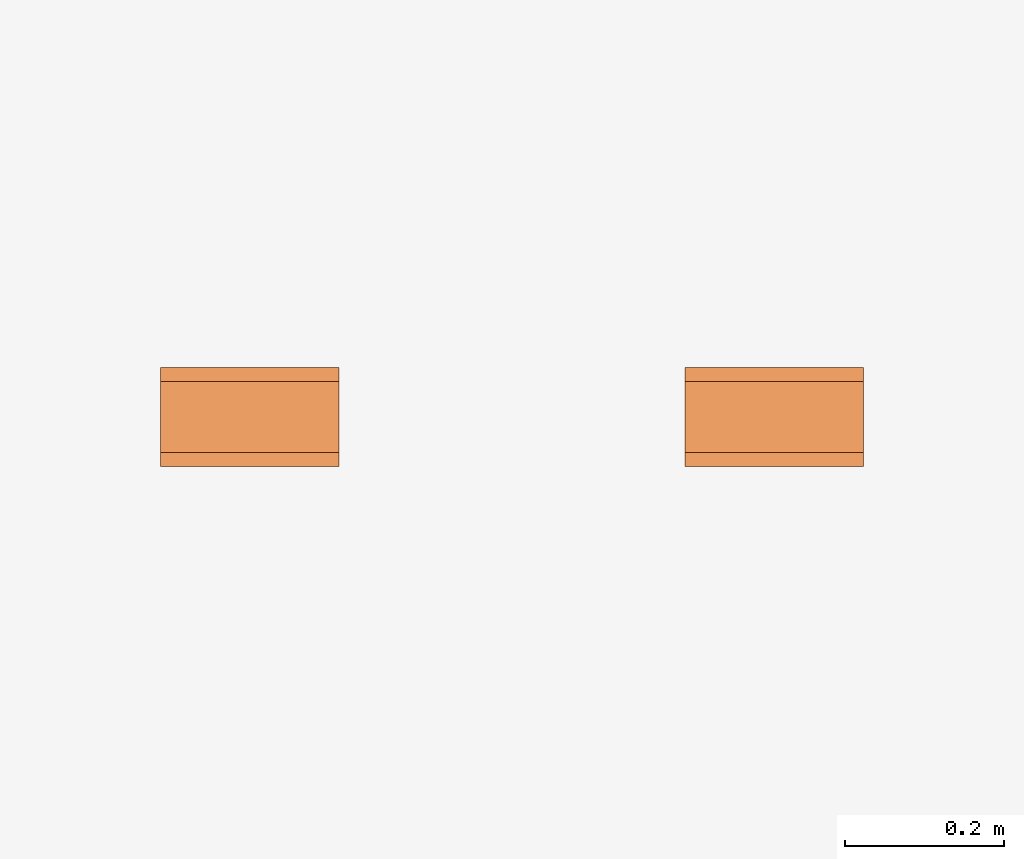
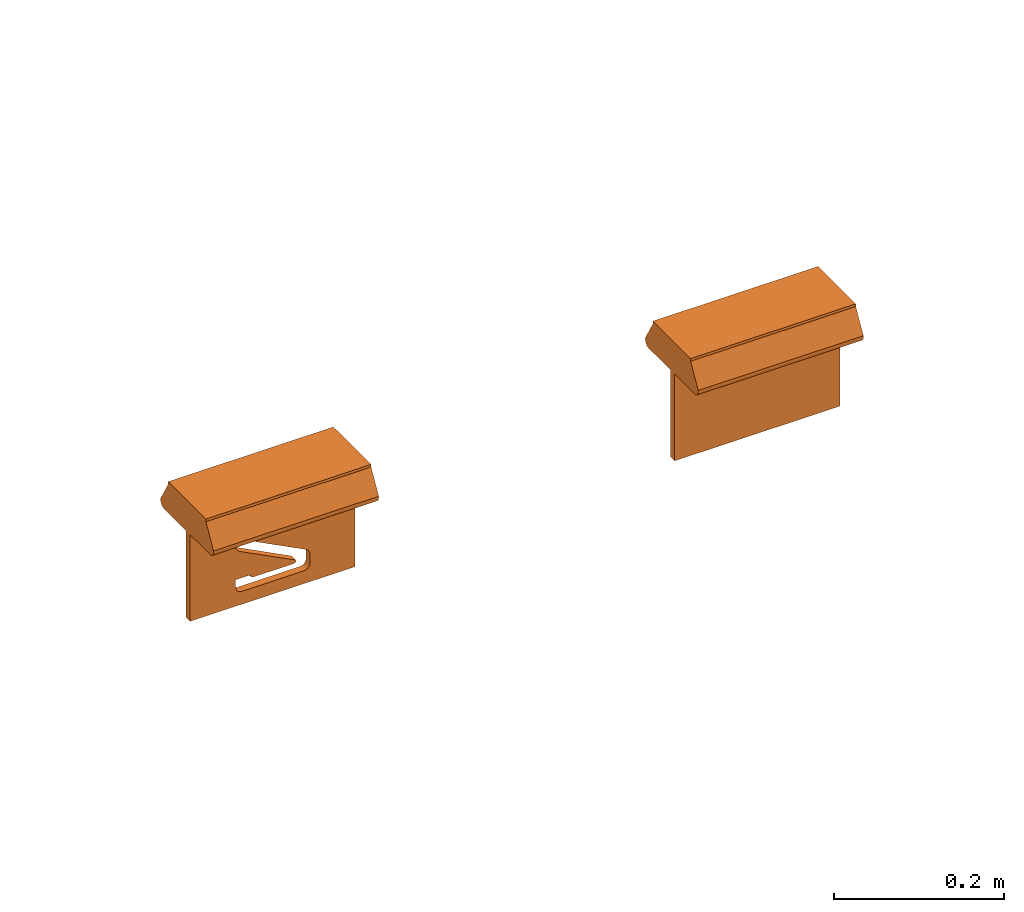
# One storey, part 55 of 197: 2 proxies.
"""IFC2X3 building model written with IfcOpenShell, lengths in metres."""

from ifc_helpers import new_model, entity, si_unit, converted_unit, direction, frame, frame_2d, origin, place, context, subcontext, project, spatial, polyline, circle_curve, parameter, trimmed, segment, composite_curve, outline, extrude, source, transform, mapped, material, material_list, type_object, type_shapes, element, save


model = new_model("IFC2X3")

# Units and contexts
model_context = context("Model", 3, precision=1e-05, world=origin(), true_north=direction((6.123031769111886e-17, 1.0)))
body_context = subcontext(model_context, "Body", "Model", "MODEL_VIEW")
ifc_project = project(units=[si_unit("LENGTHUNIT", "METRE"), converted_unit("PLANEANGLEUNIT", "DEGREE", entity("IfcPlaneAngleMeasure", 0.017453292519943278), si_unit("PLANEANGLEUNIT", "RADIAN"), dimensions=[0, 0, 0, 0, 0, 0, 0]), si_unit("AREAUNIT", "SQUARE_METRE")], contexts=[model_context])

# Site, building, storey
site_placement = place(None, origin())
site = spatial("IfcSite", under=ifc_project, at=site_placement, Name="Default", CompositionType="ELEMENT")
building_placement = place(site_placement, origin())
building = spatial("IfcBuilding", under=site, at=building_placement, CompositionType="ELEMENT")
storey_placement = place(building_placement, origin())
storey = spatial("IfcBuildingStorey", under=building, at=storey_placement, Name="Niveau 0", CompositionType="ELEMENT", Elevation=0.0)

# Proxies
ifc_material_1 = material(Name="BETCE-ETIQUETTE-BLANC")
ifc_material_2 = material(Name="BETCE-ETIQUETTE-VERT 0-193-0")
ifc_material_3 = material(Name="BETCE-VITRE BAES-BLEU")
ifc_material_4 = material(Name="BETCE-ENVELOPPE-BLANC")
ifc_material_list_1 = material_list([ifc_material_1, ifc_material_2, ifc_material_3, ifc_material_4])
building_element_proxy_type_1 = type_object("IfcBuildingElementProxyType", Name="Eclairage de sécurité saillie étanche plafond:AMBIANCE", PredefinedType="NOTDEFINED", material=ifc_material_list_1)
shared_shape_1 = source(origin(), body_context, "Body", "SweptSolid", [
    extrude(outline(polyline([(-0.011070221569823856, -0.05892479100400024), (0.011390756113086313, -0.05892479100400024), (0.0510682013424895, 0.026163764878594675), (0.0288009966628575, 0.026163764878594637), (0.01967698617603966, 0.006597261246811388), (-0.01999752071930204, 0.006597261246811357), (-0.029121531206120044, 0.026163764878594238), (-0.050747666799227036, 0.026163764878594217), (-0.011070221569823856, -0.05892479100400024)]), holes=[polyline([(-0.012794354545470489, -0.00884997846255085), (0.012473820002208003, -0.008849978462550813), (-0.00016026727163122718, -0.0359438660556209), (-0.012794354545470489, -0.00884997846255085)])]), frame((0.0002390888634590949, -0.005, -0.12540916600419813), z_axis=(0.0, 1.0, 0.0), x_axis=(1.0, 0.0, 0.0)), (0.0, 0.0, 1.0), 0.009999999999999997),
    extrude(outline(polyline([(-0.05249999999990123, -0.10250000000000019), (0.052499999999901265, -0.10250000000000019), (0.052499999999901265, 0.10250000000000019), (-0.05249999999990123, 0.10250000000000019), (-0.05249999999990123, -0.10250000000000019)]), holes=[polyline([(0.044072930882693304, 0.050508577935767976), (0.04407293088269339, 0.028882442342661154), (0.024506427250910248, 0.019758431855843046), (0.0245064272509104, -0.01991607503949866), (0.04407293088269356, -0.02904008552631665), (0.04407293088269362, -0.05130729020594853), (-0.041015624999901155, -0.011629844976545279), (-0.041015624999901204, 0.010831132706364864), (0.044072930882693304, 0.050508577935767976)])]), frame((0.0, -0.005, -0.10750000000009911), z_axis=(0.0, 1.0, 0.0), x_axis=(0.0, 0.0, -1.0)), (0.0, 0.0, 1.0), 0.01),
    extrude(outline(polyline([(-0.013524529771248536, -0.0076335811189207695), (0.016370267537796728, -0.007633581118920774), (-0.0028457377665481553, 0.015267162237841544), (-0.013524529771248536, -0.0076335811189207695)])), frame((7.882159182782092e-05, -0.004999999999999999, -0.1075278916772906), z_axis=(0.0, 1.0, 0.0), x_axis=(0.42261826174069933, 0.0, 0.90630778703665)), (0.0, 0.0, 1.0), 0.01),
    extrude(outline(polyline([(-0.06250000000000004, -0.11175180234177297), (0.062499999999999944, -0.11175180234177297), (0.06249999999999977, -5.459731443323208e-05), (0.0625000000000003, 0.11324819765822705), (-0.06249999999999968, 0.11324819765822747), (-0.06250000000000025, -0.0029381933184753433), (-0.06250000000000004, -0.11175180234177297)]), holes=[polyline([(0.052499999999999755, 0.0013023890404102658), (0.05249999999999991, -0.10175180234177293), (-0.05250000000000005, -0.10175180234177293), (-0.05250000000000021, -0.0022597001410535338), (-0.05249999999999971, 0.10324819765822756), (0.05250000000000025, 0.10324819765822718), (0.052499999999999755, 0.0013023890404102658)])]), frame((-0.0007481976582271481, -0.005, -0.10750000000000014), z_axis=(0.0, 1.0, 0.0), x_axis=(0.0, 0.0, 1.0)), (0.0, 0.0, 1.0), 0.01),
    extrude(outline(composite_curve([segment(trimmed(circle_curve(frame_2d((-0.001999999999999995, -0.05449999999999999), x_axis=(1.0, 0.0)), 0.008), [parameter(269.9999999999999)], [parameter(0.0)], True, "PARAMETER"), True, "CONTINUOUS"), segment(polyline([(0.006000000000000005, -0.05449999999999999), (0.006000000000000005, 0.054500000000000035)]), True, "CONTINUOUS"), segment(trimmed(circle_curve(frame_2d((-0.001999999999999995, 0.05450000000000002), x_axis=(1.0, 0.0)), 0.008), [parameter(359.99999999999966)], [parameter(89.99999999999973)], True, "PARAMETER"), True, "CONTINUOUS"), segment(polyline([(-0.0019999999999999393, 0.06250000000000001), (-0.00399999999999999, 0.06250000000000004)]), True, "CONTINUOUS"), segment(polyline([(-0.00399999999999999, 0.06250000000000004), (-0.00399999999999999, -0.0625)]), True, "CONTINUOUS"), segment(polyline([(-0.00399999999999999, -0.0625), (-0.001999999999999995, -0.0625)]), True, "CONTINUOUS")], self_intersect=False)), frame((-0.1125, 0.0019999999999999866, -0.039), z_axis=(1.0, 0.0, 0.0), x_axis=(0.0, 0.0, -1.0)), (0.0, 0.0, 1.0), 0.22499999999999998),
    extrude(outline(polyline([(-0.06250000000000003, -0.02205897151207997), (0.06250000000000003, -0.02205897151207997), (0.044499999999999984, 0.00911794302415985), (0.044499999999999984, 0.012941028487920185), (-0.044499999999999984, 0.012941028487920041), (-0.04449999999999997, 0.009117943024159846), (-0.06250000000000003, -0.02205897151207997)])), frame((-0.11249999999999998, 0.002000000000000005, -0.012941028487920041), z_axis=(1.0, 0.0, 0.0), x_axis=(0.0, 1.0, 0.0)), (0.0, 0.0, 1.0), 0.225),
])
type_shapes(building_element_proxy_type_1, [shared_shape_1])
proxy_1_placement = place(storey_placement, frame((-484.4944728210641, 108.51998673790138, 1.4999999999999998)))
element("IfcBuildingElementProxy", 1, at=proxy_1_placement, inside=storey, type_object=building_element_proxy_type_1, material=ifc_material_list_1, Name="Eclairage de sécurité saillie étanche plafond:AMBIANCE", ObjectType="Eclairage de sécurité saillie étanche plafond:AMBIANCE", context=body_context, shape_type="MappedRepresentation", body=[
    mapped(shared_shape_1, transform((0.0, 0.0, 0.0), scale=1.0)),
])
ifc_material_list_2 = material_list([ifc_material_2, ifc_material_4, ifc_material_3])
building_element_proxy_type_2 = type_object("IfcBuildingElementProxyType", Name="Eclairage de sécurité saillie étanche plafond:SORTIE", PredefinedType="NOTDEFINED", material=ifc_material_list_2)
shared_shape_2 = source(origin(), body_context, "Body", "SweptSolid", [
    extrude(outline(polyline([(-0.05249999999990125, -0.10250000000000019), (0.05249999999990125, -0.10250000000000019), (0.05249999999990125, 0.10250000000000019), (-0.05249999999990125, 0.10250000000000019), (-0.05249999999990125, -0.10250000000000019)]), holes=[composite_curve([segment(trimmed(circle_curve(frame_2d((-0.03544806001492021, 0.041676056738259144), x_axis=(0.0, -1.0)), 0.008677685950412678), [parameter(179.9999999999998)], [parameter(269.9999999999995)], True, "PARAMETER"), False, "CONTINUOUS"), segment(polyline([(-0.03544806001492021, 0.05035374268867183), (-0.024600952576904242, 0.05035374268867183)]), True, "CONTINUOUS"), segment(trimmed(circle_curve(frame_2d((-0.024600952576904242, 0.0382049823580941), x_axis=(0.0, -1.0)), 0.01214876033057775), [parameter(125.70439290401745)], [parameter(179.9999999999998)], True, "PARAMETER"), False, "CONTINUOUS"), segment(polyline([(-0.014735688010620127, 0.045295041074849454), (0.0245331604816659, -0.031263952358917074)]), True, "CONTINUOUS"), segment(trimmed(circle_curve(frame_2d((0.02611047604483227, -0.029068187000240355), x_axis=(0.0, -1.0)), 0.0027035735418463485), [parameter(324.30863793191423)], [parameter(90.0000000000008)], True, "PARAMETER"), True, "CONTINUOUS"), segment(polyline([(0.02881404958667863, -0.029068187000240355), (0.028814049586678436, 0.026056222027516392)]), True, "CONTINUOUS"), segment(trimmed(circle_curve(frame_2d((0.024475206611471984, 0.026056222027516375), x_axis=(0.0, -1.0)), 0.004338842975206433), [parameter(90.00000000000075)], [parameter(180.00000000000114)], True, "PARAMETER"), True, "CONTINUOUS"), segment(polyline([(0.024475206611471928, 0.030395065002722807), (0.024475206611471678, 0.05035374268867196)]), True, "CONTINUOUS"), segment(polyline([(0.024475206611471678, 0.05035374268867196), (0.0353223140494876, 0.05035374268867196)]), True, "CONTINUOUS"), segment(trimmed(circle_curve(frame_2d((0.0353223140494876, 0.04167605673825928), x_axis=(0.0, -1.0)), 0.008677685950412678), [parameter(90.00000000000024)], [parameter(179.99999999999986)], True, "PARAMETER"), False, "CONTINUOUS"), segment(polyline([(0.043999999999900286, 0.041676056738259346), (0.04399999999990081, -0.04247476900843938)]), True, "CONTINUOUS"), segment(trimmed(circle_curve(frame_2d((0.03532231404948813, -0.04247476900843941), x_axis=(0.0, -1.0)), 0.008677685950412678), [parameter(3.5622212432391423e-13)], [parameter(89.99999999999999)], True, "PARAMETER"), False, "CONTINUOUS"), segment(polyline([(0.03532231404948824, -0.05115245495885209), (0.024475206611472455, -0.05115245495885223)]), True, "CONTINUOUS"), segment(trimmed(circle_curve(frame_2d((0.024475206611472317, -0.0390036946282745), x_axis=(0.0, -1.0)), 0.01214876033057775), [parameter(305.7043929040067)], [parameter(3.053332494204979e-13)], True, "PARAMETER"), False, "CONTINUOUS"), segment(polyline([(0.014609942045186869, -0.04609375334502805), (-0.023851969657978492, 0.02889202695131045)]), True, "CONTINUOUS"), segment(trimmed(circle_curve(frame_2d((-0.026249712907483, 0.027662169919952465), x_axis=(0.0, -1.0)), 0.00269008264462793), [parameter(117.15431896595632)], [parameter(270.00000000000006)], True, "PARAMETER"), True, "CONTINUOUS"), segment(polyline([(-0.02893979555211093, 0.027662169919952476), (-0.02893979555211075, -0.026854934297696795)]), True, "CONTINUOUS"), segment(trimmed(circle_curve(frame_2d((-0.02460095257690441, -0.026854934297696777), x_axis=(0.0, -1.0)), 0.004338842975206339), [parameter(270.00000000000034)], [parameter(9.159997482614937e-13)], True, "PARAMETER"), True, "CONTINUOUS"), segment(polyline([(-0.02460095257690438, -0.031193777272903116), (-0.024600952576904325, -0.051152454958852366)]), True, "CONTINUOUS"), segment(polyline([(-0.024600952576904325, -0.051152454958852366), (-0.03544806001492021, -0.051152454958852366)]), True, "CONTINUOUS"), segment(trimmed(circle_curve(frame_2d((-0.03544806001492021, -0.04247476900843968), x_axis=(0.0, -1.0)), 0.008677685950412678), [parameter(269.99999999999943)], [parameter(359.9999999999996)], True, "PARAMETER"), False, "CONTINUOUS"), segment(polyline([(-0.04412574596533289, -0.04247476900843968), (-0.04412574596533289, 0.041676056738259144)]), True, "CONTINUOUS")], self_intersect=False)]), frame((0.0, -0.005, -0.10750000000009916), z_axis=(0.0, 1.0, 0.0), x_axis=(0.0, 0.0, -1.0)), (0.0, 0.0, 1.0), 0.01),
    extrude(outline(polyline([(-0.06250000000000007, -0.11175180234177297), (0.06249999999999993, -0.11175180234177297), (0.06249999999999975, -5.459731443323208e-05), (0.06250000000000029, 0.11324819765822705), (-0.0624999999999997, 0.11324819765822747), (-0.06250000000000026, -0.0029381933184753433), (-0.06250000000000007, -0.11175180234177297)]), holes=[polyline([(0.05249999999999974, 0.0013023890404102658), (0.052499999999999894, -0.10175180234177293), (-0.05250000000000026, -0.10175180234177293), (-0.052500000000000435, -0.002259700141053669), (-0.05249999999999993, 0.10324819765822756), (0.052500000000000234, 0.10324819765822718), (0.05249999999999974, 0.0013023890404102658)])]), frame((-0.0007481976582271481, -0.005, -0.10750000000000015), z_axis=(0.0, 1.0, 0.0), x_axis=(0.0, 0.0, 1.0)), (0.0, 0.0, 1.0), 0.01),
    extrude(outline(composite_curve([segment(trimmed(circle_curve(frame_2d((-0.001999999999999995, -0.05449999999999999), x_axis=(1.0, 0.0)), 0.008), [parameter(269.9999999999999)], [parameter(0.0)], True, "PARAMETER"), True, "CONTINUOUS"), segment(polyline([(0.006000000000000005, -0.05449999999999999), (0.006000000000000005, 0.054500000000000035)]), True, "CONTINUOUS"), segment(trimmed(circle_curve(frame_2d((-0.001999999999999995, 0.05450000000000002), x_axis=(1.0, 0.0)), 0.008), [parameter(359.99999999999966)], [parameter(89.99999999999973)], True, "PARAMETER"), True, "CONTINUOUS"), segment(polyline([(-0.0019999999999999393, 0.06250000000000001), (-0.00399999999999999, 0.06250000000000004)]), True, "CONTINUOUS"), segment(polyline([(-0.00399999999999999, 0.06250000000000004), (-0.00399999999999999, -0.0625)]), True, "CONTINUOUS"), segment(polyline([(-0.00399999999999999, -0.0625), (-0.001999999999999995, -0.0625)]), True, "CONTINUOUS")], self_intersect=False)), frame((-0.1125, 0.0019999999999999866, -0.039), z_axis=(1.0, 0.0, 0.0), x_axis=(0.0, 0.0, -1.0)), (0.0, 0.0, 1.0), 0.22499999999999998),
    extrude(outline(polyline([(-0.06250000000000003, -0.02205897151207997), (0.06250000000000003, -0.02205897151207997), (0.044499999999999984, 0.00911794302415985), (0.044499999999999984, 0.012941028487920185), (-0.044499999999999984, 0.012941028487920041), (-0.04449999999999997, 0.009117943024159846), (-0.06250000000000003, -0.02205897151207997)])), frame((-0.11249999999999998, 0.002000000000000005, -0.012941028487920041), z_axis=(1.0, 0.0, 0.0), x_axis=(0.0, 1.0, 0.0)), (0.0, 0.0, 1.0), 0.225),
])
type_shapes(building_element_proxy_type_2, [shared_shape_2])
proxy_2_placement = place(storey_placement, frame((-485.15458824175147, 108.51998673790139, 1.4999999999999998)))
element("IfcBuildingElementProxy", 2, at=proxy_2_placement, inside=storey, type_object=building_element_proxy_type_2, material=ifc_material_list_2, Name="Eclairage de sécurité saillie étanche plafond:SORTIE", ObjectType="Eclairage de sécurité saillie étanche plafond:SORTIE", context=body_context, shape_type="MappedRepresentation", body=[
    mapped(shared_shape_2, transform((0.0, 0.0, 0.0), scale=1.0)),
])

save(model, "model.ifc")
